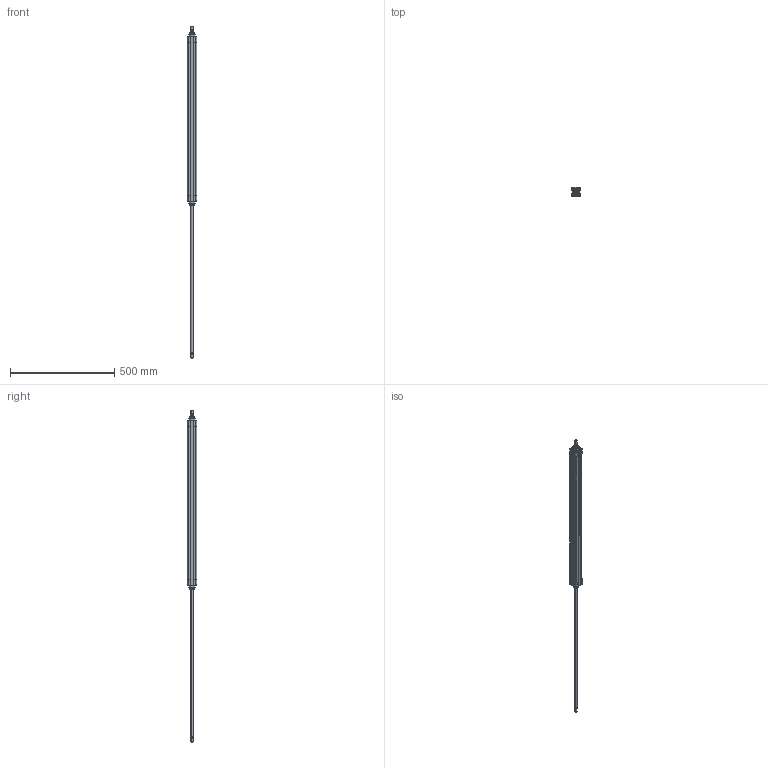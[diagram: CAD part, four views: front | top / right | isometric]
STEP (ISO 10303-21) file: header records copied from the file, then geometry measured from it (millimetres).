
FILE_DESCRIPTION((''),'2;1');
FILE_NAME('F:\Lib-3d\1380\CIL\1380_32_0700_02.stp','2004-01-07T16:01:51',('maffial1'),(''),'Autodesk Inventor 8','Autodesk Inventor 8','');
FILE_SCHEMA(('AUTOMOTIVE_DESIGN { 1 0 10303 214 1 1 1 1 }'));
Length unit declared in the file: millimetre
Products named in the file (3): 1380_32_0700_02; CPP04_32_700; CPP03_32_700
Assembly tree (2 placements, depth 2):
  1380_32_0700_02
    CPP04_32_700
    CPP03_32_700
Bounding box: 46 x 46 x 1590 mm (x, y, z)
Volume: 1578294.6 mm3; surface area: 279138.4 mm2
Topology: 2 solids, 2 shells, 236 faces, 564 edges, 356 vertices
Faces by surface type: plane 80, cylinder 66, bspline 62, cone 24, torus 4
Entity records: 7513 total; most frequent: CARTESIAN_POINT 2031, DIRECTION 1154, ORIENTED_EDGE 1096, EDGE_CURVE 548, AXIS2_PLACEMENT_3D 427, VERTEX_POINT 356, VECTOR 300, LINE 300
